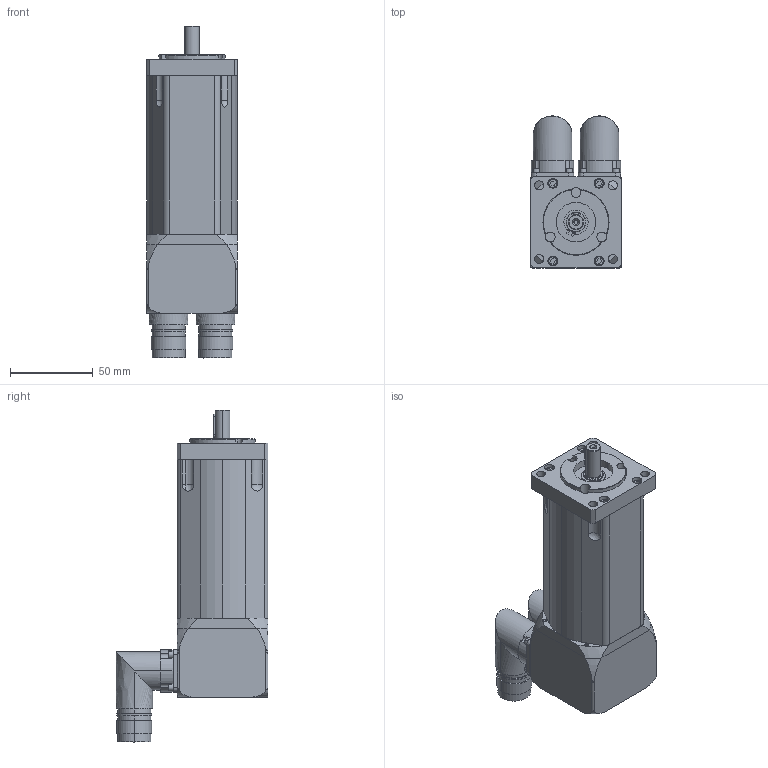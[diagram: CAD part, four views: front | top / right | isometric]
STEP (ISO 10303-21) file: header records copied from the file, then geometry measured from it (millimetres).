
FILE_DESCRIPTION (( 'STEP AP203' ), '1' );
FILE_NAME ('SSAX055M_SF.STEP', '2016-02-09T18:18:09', ( 'Tecnico motori' ), ( '' ), 'SwSTEP 2.0', 'SolidWorks 2010', '' );
FILE_SCHEMA (( 'CONFIG_CONTROL_DESIGN' ));
Length unit declared in the file: millimetre
Products named in the file (1): SSAX055M_SF
Bounding box: 55 x 92 x 201 mm (x, y, z)
Surface area: 56198.1 mm2 (no closed solid volume)
Topology: 0 solids, 27 shells, 406 faces, 1113 edges, 769 vertices
Faces by surface type: cylinder 206, plane 158, torus 22, cone 10, sphere 6, bspline 4
Entity records: 13582 total; most frequent: CARTESIAN_POINT 2843, DIRECTION 2427, ORIENTED_EDGE 1918, EDGE_CURVE 1109, AXIS2_PLACEMENT_3D 963, VERTEX_POINT 767, CIRCLE 560, EDGE_LOOP 519
